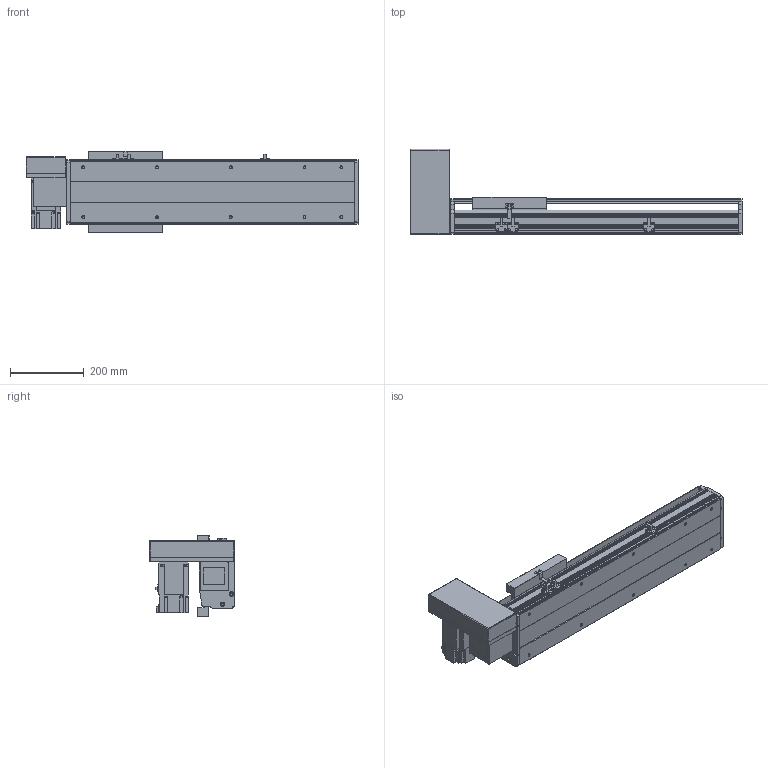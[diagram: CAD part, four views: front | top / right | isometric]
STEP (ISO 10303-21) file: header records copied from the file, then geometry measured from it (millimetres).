
FILE_DESCRIPTION(/* description */ ('STEP AP214'),/* implementation_level */ '2;1');
FILE_NAME(/* name */ 'PBS200-P40-S400-RU-T75-C1-N(0)',/* time_stamp */ '2022-06-11T09:34:11+02:00',/* author */ ('License CC BY-ND 4.0'),/* organization */ ('CADENAS'),/* preprocessor_version */ 'ST-DEVELOPER v18.102',/* originating_system */ 'PARTsolutions',/* authorisation */ ' ');
FILE_SCHEMA (('AUTOMOTIVE_DESIGN {1 0 10303 214 3 1 1}'));
Length unit declared in the file: millimetre
Products named in the file (7): PBS200-P40-S400-RU-T75-C1-N(0); PBS200_sensor; PBS200_plant; PBS200_sliser; T75-p1; PBS200T-RU_motors; PBS200-S400()_body
Assembly tree (8 placements, depth 2):
  PBS200-P40-S400-RU-T75-C1-N(0)
    PBS200_sensor  x3
    PBS200_plant
    PBS200_sliser
    T75-p1
    PBS200T-RU_motors
    PBS200-S400()_body
Bounding box: 900 x 231 x 221 mm (x, y, z)
Volume: 7490481.6 mm3; surface area: 1228915.2 mm2
Topology: 8 solids, 8 shells, 902 faces, 2344 edges, 1530 vertices
Faces by surface type: plane 568, cylinder 292, cone 42
Full cylindrical faces by diameter (mm): 2.459 x6, 3.242 x4, 4.5 x6, 4.917 x4, 5 x6, 6 x7, 6.6 x8, 6.647 x14, 8 x6, 10 x4, 12 x8, 38 x2, 40 x1, 70 x1
Entity records: 24221 total; most frequent: DIRECTION 4255, CARTESIAN_POINT 4138, ORIENTED_EDGE 3946, EDGE_CURVE 1973, AXIS2_PLACEMENT_3D 1471, VERTEX_POINT 1354, LINE 1313, VECTOR 1313
